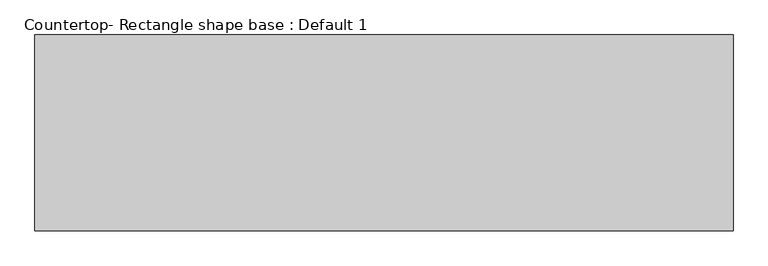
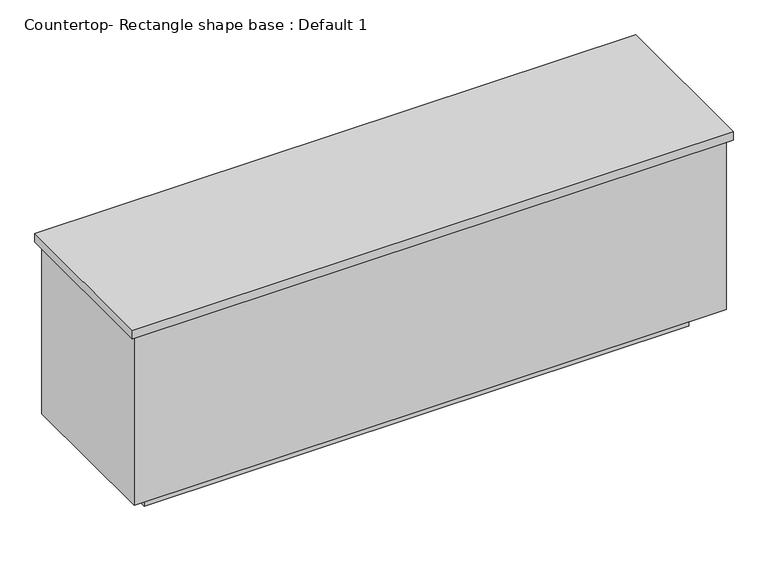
"""IFC4 building model written with IfcOpenShell, lengths in millimetres: proxy geometry, Countertop- Rectangle shape base : Default 1."""

from ifc_helpers import new_model, si_unit, frame, origin, origin_with_axes, place, context, project, spatial, polyline, outline, extrude, source, transform, mapped, element, save


def countertop_rectangle_shape_base_default_1_eeff67ab(model_context):
    return source(origin(), model_context, "Body", "SweptSolid", [
        extrude(outline(polyline([(-527.05, 19.05), (-527.05, 742.95), (2051.05, 742.95), (2051.05, 19.05), (-527.05, 19.05)])), frame((0.0, 0.0, 876.3), z_axis=(0.0, 0.0, 1.0), x_axis=(1.0, 0.0, 0.0)), (0.0, 0.0, 1.0), 38.1),
        extrude(outline(polyline([(2032.0, 723.9), (2032.0, 38.1), (-508.0, 38.1), (-508.0, 723.9), (2032.0, 723.9)])), frame((0.0, 0.0, 101.6), z_axis=(0.0, 0.0, 1.0), x_axis=(1.0, 0.0, 0.0)), (0.0, 0.0, 1.0), 774.7),
        extrude(outline(polyline([(1930.4, 622.3), (1930.4, 139.7), (-406.4, 139.7), (-406.4, 622.3), (1930.4, 622.3)])), origin_with_axes(), (0.0, 0.0, 1.0), 101.6),
    ])


if __name__ == "__main__":
    model = new_model("IFC4")
    model_context = context("Model", 3, world=origin())
    ifc_project = project(units=[si_unit("LENGTHUNIT", "METRE", prefix="MILLI")], contexts=[model_context])
    site = spatial("IfcSite", under=ifc_project)
    building = spatial("IfcBuilding", under=site)
    placement = place(None, origin())
    countertop_rectangle_shape_base_default_1_shape = countertop_rectangle_shape_base_default_1_eeff67ab(model_context)
    element("IfcBuildingElementProxy", 1, Name="Countertop- Rectangle shape base : Default 1", ObjectType="Countertop- Rectangle shape base : Default 1", at=placement, inside=building, context=model_context, shape_type="MappedRepresentation", body=[
        mapped(countertop_rectangle_shape_base_default_1_shape, transform((0.0, 0.0, 0.0), x_axis=(1.0, 0.0, 0.0), y_axis=(0.0, 1.0, 0.0), z_axis=(0.0, 0.0, 1.0))),
    ])
    save(model, "model.ifc")
